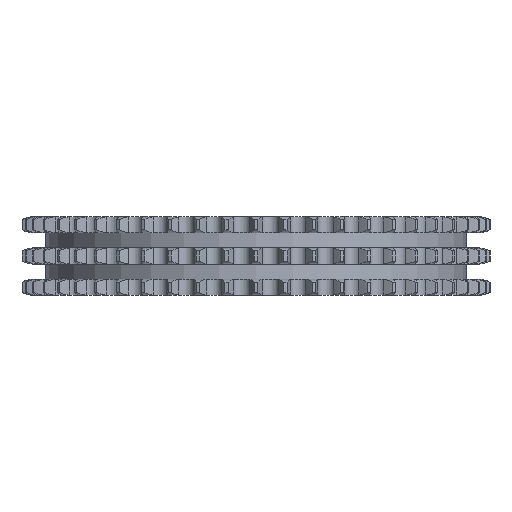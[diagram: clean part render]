
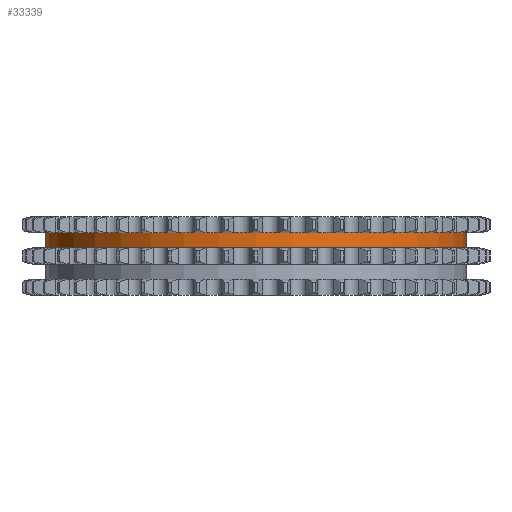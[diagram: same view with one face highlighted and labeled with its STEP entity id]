
A CAD part, left-side view. The second image highlights one B-rep face of the part: STEP entity #33339.
In plain terms, the highlighted cylindrical face has radius 93.13 mm (diameter 186.26 mm), a partial arc.
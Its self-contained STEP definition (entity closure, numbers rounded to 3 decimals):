
#6305=DIRECTION('',(0.,0.,-1.));
#6306=VECTOR('',#6305,6.65);
#6307=CARTESIAN_POINT('',(0.,93.13,10.25));
#6308=LINE('',#6307,#6306);
#6312=CARTESIAN_POINT('',(0.,0.,10.25));
#6313=DIRECTION('',(0.,0.,1.));
#6314=DIRECTION('',(0.,1.,0.));
#6315=AXIS2_PLACEMENT_3D('',#6312,#6313,#6314);
#6320=DIRECTION('',(0.,0.,-1.));
#6321=VECTOR('',#6320,6.65);
#6322=CARTESIAN_POINT('',(0.,-93.13,10.25));
#6323=LINE('',#6322,#6321);
#6327=CARTESIAN_POINT('',(0.,0.,3.6));
#6328=DIRECTION('',(0.,0.,1.));
#6329=DIRECTION('',(0.,1.,0.));
#6330=AXIS2_PLACEMENT_3D('',#6327,#6328,#6329);
#26860=CARTESIAN_POINT('',(0.,93.13,10.25));
#26861=CARTESIAN_POINT('',(0.,93.13,3.6));
#26862=VERTEX_POINT('',#26860);
#26863=VERTEX_POINT('',#26861);
#26864=CARTESIAN_POINT('',(0.,-93.13,10.25));
#26865=CARTESIAN_POINT('',(0.,-93.13,3.6));
#26866=VERTEX_POINT('',#26864);
#26867=VERTEX_POINT('',#26865);
#33327=CARTESIAN_POINT('',(0.,0.,11.275));
#33328=DIRECTION('',(0.,0.,-1.));
#33329=DIRECTION('',(0.,-1.,0.));
#33330=AXIS2_PLACEMENT_3D('',#33327,#33328,#33329);
#33331=CYLINDRICAL_SURFACE('',#33330,93.13);
#33332=ORIENTED_EDGE('',*,*,#33317,.F.);
#33333=ORIENTED_EDGE('',*,*,#33307,.T.);
#33334=ORIENTED_EDGE('',*,*,#33321,.T.);
#33336=ORIENTED_EDGE('',*,*,#33335,.F.);
#33337=EDGE_LOOP('',(#33332,#33333,#33334,#33336));
#33338=FACE_OUTER_BOUND('',#33337,.F.);
#33339=ADVANCED_FACE('',(#33338),#33331,.T.);
#6316=CIRCLE('',#6315,93.13);
#6331=CIRCLE('',#6330,93.13);
#33307=EDGE_CURVE('',#26862,#26866,#6316,.T.);
#33317=EDGE_CURVE('',#26862,#26863,#6308,.T.);
#33321=EDGE_CURVE('',#26866,#26867,#6323,.T.);
#33335=EDGE_CURVE('',#26863,#26867,#6331,.T.);
